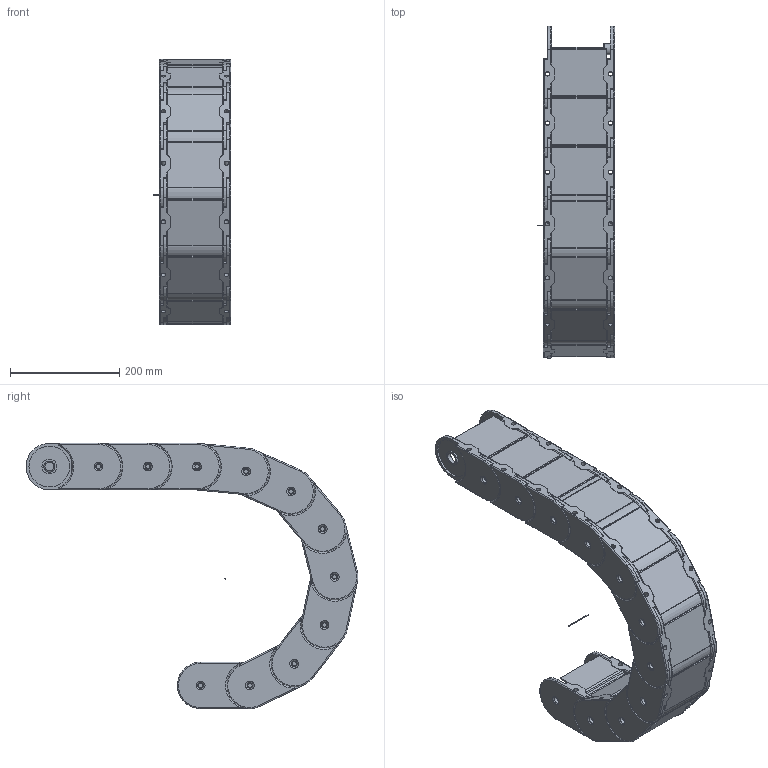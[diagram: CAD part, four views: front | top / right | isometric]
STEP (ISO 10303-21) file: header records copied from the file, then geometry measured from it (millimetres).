
FILE_DESCRIPTION((''),'2;1');
FILE_NAME('C:\Uebbing\TRACE PARTS\PKK\PKK 345\PKK 345 vereinfacht.stp','2013-06-10T13:27:07',('Uebbing'),(''),'Autodesk Inventor 10','Autodesk Inventor 10','');
FILE_SCHEMA(('AUTOMOTIVE_DESIGN { 1 0 10303 214 1 1 1 1 }'));
Length unit declared in the file: millimetre
Products named in the file (3): PKK 345 vereinfacht; Achse; PKK 345 Glied vereinfacht
Assembly tree (12 placements, depth 2):
  PKK 345 vereinfacht
    Achse
    PKK 345 Glied vereinfacht  x11
Bounding box: 141.09 x 606.48 x 485 mm (x, y, z)
Volume: 2595860.3 mm3; surface area: 1321791.3 mm2
Topology: 12 solids, 12 shells, 2346 faces, 6131 edges, 3754 vertices
Faces by surface type: plane 981, cylinder 782, bspline 319, torus 176, sphere 88
Full cylindrical faces by diameter (mm): 1 x1, 8 x22, 12 x22, 20 x22, 20.2 x22, 27 x44, 74.4 x44
Entity records: 7002 total; most frequent: CARTESIAN_POINT 1662, DIRECTION 1111, ORIENTED_EDGE 1050, EDGE_CURVE 525, AXIS2_PLACEMENT_3D 396, VERTEX_POINT 341, VECTOR 319, LINE 319
